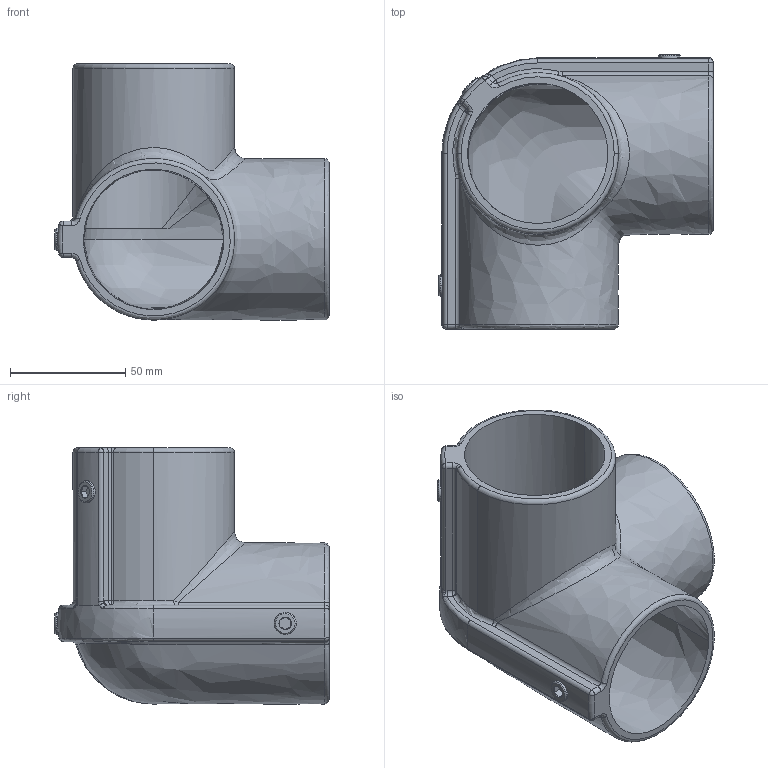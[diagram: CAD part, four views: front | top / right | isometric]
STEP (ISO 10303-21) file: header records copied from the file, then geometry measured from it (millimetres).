
FILE_DESCRIPTION(/* description */ ('(C) Elphel, Inc. 2012. Licensed under CERN OHL v.1.1 or later, see http://ohwr.org/cernohl'),/* implementation_level */ '2;1');
FILE_NAME(/* name */ '0353-80-04',/* time_stamp */ '2012-06-10T22:20:46-06:00',/* author */ (''),/* organization */ ('Elphel, Inc'),/* preprocessor_version */ 'ST-DEVELOPER v12',/* originating_system */ 'VariCAD 2012-1.04; kernel version (20100102)',/* authorisation */ '');
FILE_SCHEMA (('AUTOMOTIVE_DESIGN'));
Length unit declared in the file: millimetre
Products named in the file (1): Part
Bounding box: 119.13 x 119.13 x 111.25 mm (x, y, z)
Volume: 199899.9 mm3; surface area: 80479.6 mm2
Topology: 1 solids, 1 shells, 136 faces, 309 edges, 171 vertices
Faces by surface type: plane 33, cylinder 32, cone 24, bspline 22, torus 14, sphere 11
Entity records: 48635 total; most frequent: CARTESIAN_POINT 45874, ORIENTED_EDGE 600, DIRECTION 505, EDGE_CURVE 300, AXIS2_PLACEMENT_3D 209, VERTEX_POINT 171, EDGE_LOOP 145, ADVANCED_FACE 136
